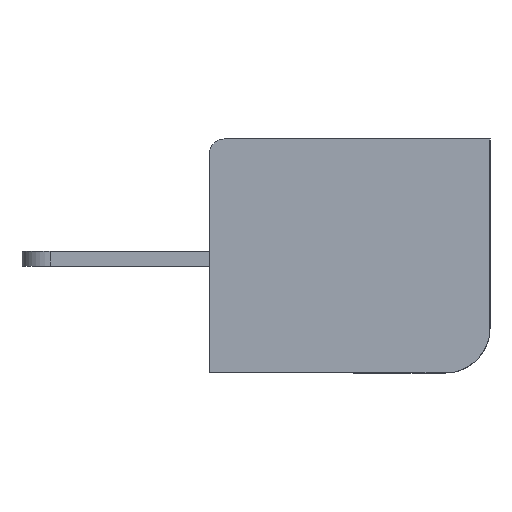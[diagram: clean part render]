
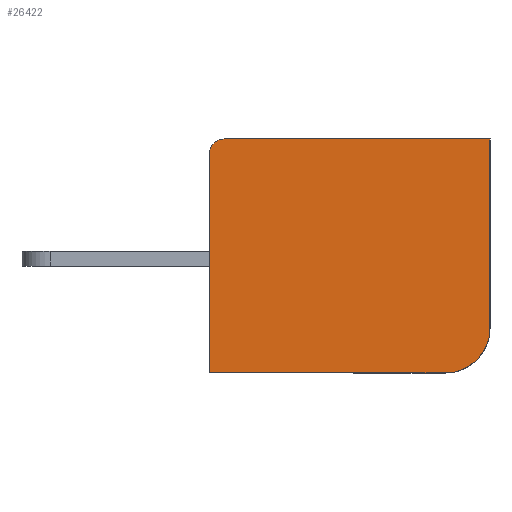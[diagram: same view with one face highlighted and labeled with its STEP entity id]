
A CAD part, left-side view. The second image highlights one B-rep face of the part: STEP entity #26422.
In plain terms, the highlighted planar face has unit normal (-1, 0, 0).
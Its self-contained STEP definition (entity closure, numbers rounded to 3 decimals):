
#607=DIRECTION('',(0.,1.,0.));
#608=VECTOR('',#607,12.6);
#609=CARTESIAN_POINT('',(16.5,2.4,-12.5));
#610=LINE('',#609,#608);
#3513=DIRECTION('',(0.,0.,-1.));
#3514=VECTOR('',#3513,11.7);
#3515=CARTESIAN_POINT('',(16.5,15.,-0.8));
#3516=LINE('',#3515,#3514);
#3517=CARTESIAN_POINT('',(16.5,14.2,-0.8));
#3518=DIRECTION('',(-1.,0.,0.));
#3519=DIRECTION('',(0.,0.,1.));
#3520=AXIS2_PLACEMENT_3D('',#3517,#3518,#3519);
#3522=DIRECTION('',(0.,1.,0.));
#3523=VECTOR('',#3522,14.2);
#3524=CARTESIAN_POINT('',(16.5,0.,0.));
#3525=LINE('',#3524,#3523);
#3526=DIRECTION('',(0.,0.,1.));
#3527=VECTOR('',#3526,10.1);
#3528=CARTESIAN_POINT('',(16.5,0.,-10.1));
#3529=LINE('',#3528,#3527);
#3530=CARTESIAN_POINT('',(16.5,2.4,-10.1));
#3531=DIRECTION('',(-1.,0.,0.));
#3532=DIRECTION('',(0.,0.,-1.));
#3533=AXIS2_PLACEMENT_3D('',#3530,#3531,#3532);
#21224=CARTESIAN_POINT('',(16.5,0.,0.));
#21226=VERTEX_POINT('',#21224);
#21227=CARTESIAN_POINT('',(16.5,14.2,0.));
#21228=VERTEX_POINT('',#21227);
#21239=CARTESIAN_POINT('',(16.5,0.,-10.1));
#21240=VERTEX_POINT('',#21239);
#21405=CARTESIAN_POINT('',(16.5,15.,-0.8));
#21406=VERTEX_POINT('',#21405);
#21407=CARTESIAN_POINT('',(16.5,15.,-12.5));
#21408=VERTEX_POINT('',#21407);
#21409=CARTESIAN_POINT('',(16.5,2.4,-12.5));
#21410=VERTEX_POINT('',#21409);
#26407=CARTESIAN_POINT('',(16.5,15.,0.));
#26408=DIRECTION('',(-1.,0.,0.));
#26409=DIRECTION('',(0.,1.,0.));
#26410=AXIS2_PLACEMENT_3D('',#26407,#26408,#26409);
#26411=PLANE('',#26410);
#26412=ORIENTED_EDGE('',*,*,#23246,.F.);
#26414=ORIENTED_EDGE('',*,*,#26413,.F.);
#26416=ORIENTED_EDGE('',*,*,#26415,.F.);
#26417=ORIENTED_EDGE('',*,*,#23130,.F.);
#26418=ORIENTED_EDGE('',*,*,#26401,.F.);
#26419=ORIENTED_EDGE('',*,*,#23199,.T.);
#26420=EDGE_LOOP('',(#26412,#26414,#26416,#26417,#26418,#26419));
#26421=FACE_OUTER_BOUND('',#26420,.F.);
#26422=ADVANCED_FACE('',(#26421),#26411,.T.);
#3521=CIRCLE('',#3520,0.8);
#3534=CIRCLE('',#3533,2.4);
#23130=EDGE_CURVE('',#21240,#21226,#3529,.T.);
#23199=EDGE_CURVE('',#21410,#21408,#610,.T.);
#23246=EDGE_CURVE('',#21406,#21408,#3516,.T.);
#26401=EDGE_CURVE('',#21410,#21240,#3534,.T.);
#26413=EDGE_CURVE('',#21228,#21406,#3521,.T.);
#26415=EDGE_CURVE('',#21226,#21228,#3525,.T.);
